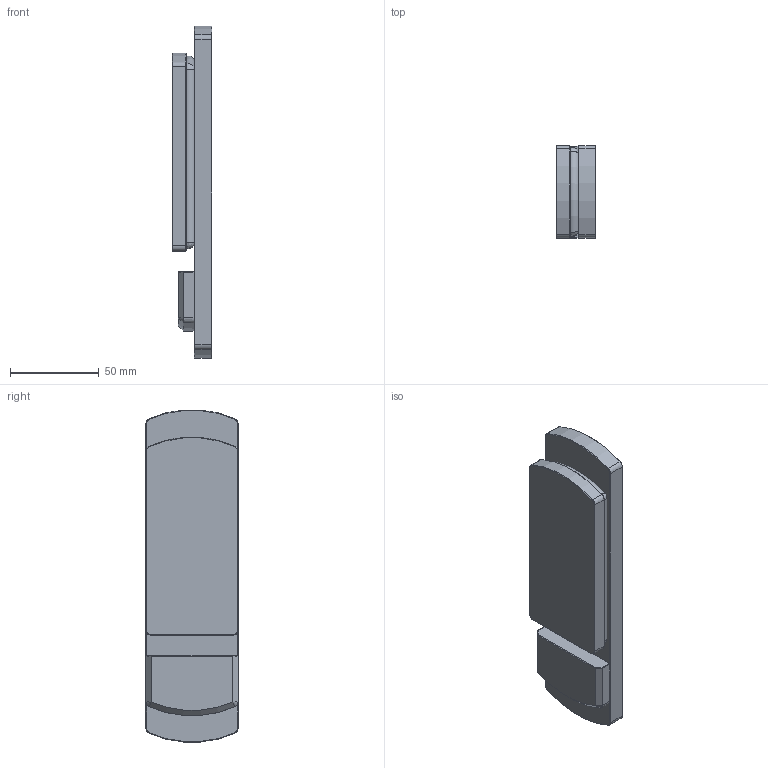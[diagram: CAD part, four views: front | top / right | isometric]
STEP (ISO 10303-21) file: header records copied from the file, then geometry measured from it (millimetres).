
FILE_DESCRIPTION(/* description */ (''),/* implementation_level */ '2;1');
FILE_NAME(/* name */ '2031883_B_PSEN sl2-L-VA actuator.stp',/* time_stamp */ '2024-01-25T15:06:55+01:00',/* author */ ('EW-PS'),/* organization */ (''),/* preprocessor_version */ 'ST-DEVELOPER v20',/* originating_system */ 'Autodesk Inventor 2024',/* authorisation */ '');
FILE_SCHEMA (('AUTOMOTIVE_DESIGN { 1 0 10303 214 3 1 1 }'));
Length unit declared in the file: millimetre
Products named in the file (1): 2031883
Bounding box: 22.5 x 52 x 187.59 mm (x, y, z)
Volume: 178205 mm3; surface area: 31544.5 mm2
Topology: 1 solids, 1 shells, 207 faces, 491 edges, 301 vertices
Faces by surface type: cylinder 96, cone 48, plane 43, torus 12, bspline 6, sphere 2
Full cylindrical faces by diameter (mm): 4.134 x2, 4.7 x4, 9 x1, 11 x1, 11.1 x1, 15 x1, 16 x1, 16.5 x1
Entity records: 6337 total; most frequent: CARTESIAN_POINT 1396, DIRECTION 1122, ORIENTED_EDGE 976, EDGE_CURVE 488, AXIS2_PLACEMENT_3D 463, VERTEX_POINT 301, CIRCLE 253, EDGE_LOOP 225
